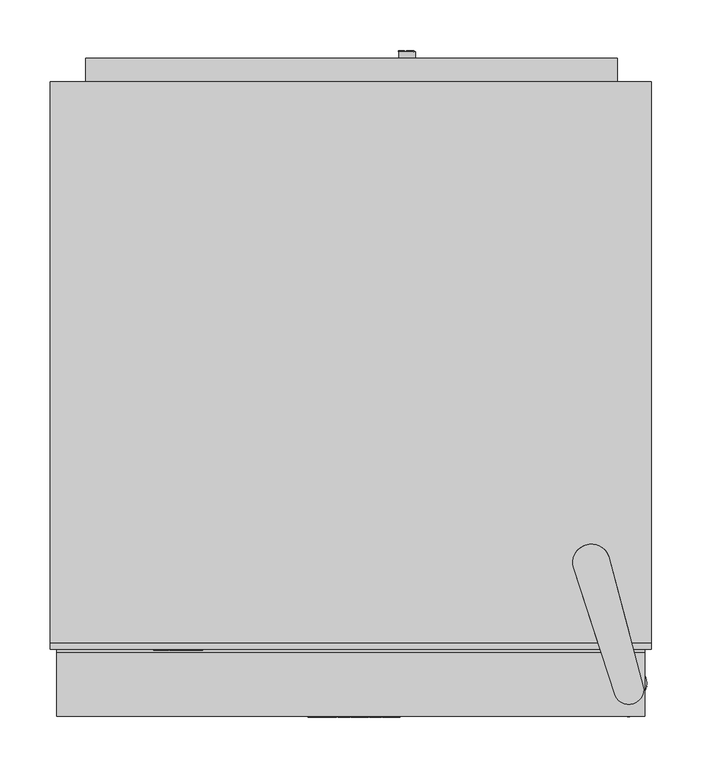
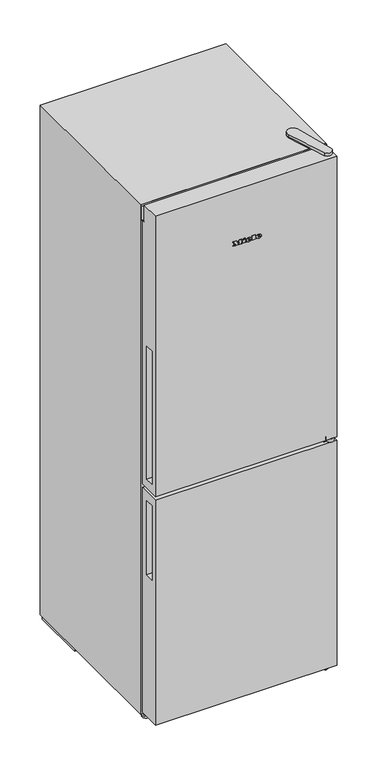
"""IFC4 building model written with IfcOpenShell, lengths in millimetres: proxy geometry, 11980300_EU1_KD4050E_EL : 38405051_EU1_11980300_KD4050E_EL."""

from ifc_helpers import new_model, si_unit, point, frame, frame_2d, origin, origin_with_axes, place, context, project, spatial, polyline, circle_curve, ellipse_curve, trimmed, segment, composite_curve, outline, extrude, faceted_brep, source, transform, mapped, element, save
from ifc_brep_helpers import plane_surface, cylinder_surface, revolved_surface, extruded_surface, advanced_brep


def specialty_equipment_8ae80f27(model_context):
    return source(origin(), model_context, "Body", "SolidModel", [
        advanced_brep(
        [(38.73, -654.0, 1567.515), (38.73, -654.0, 1569.03), (48.765, -654.0, 1569.03), (31.305, -654.0, 1569.03), (35.43, -654.0, 1563.96), (48.51, -654.0, 1567.515), (43.98, -654.0, 1567.515), (40.41, -654.0, 1565.835), (38.73, -654.0, 1570.95), (38.73, -654.0, 1572.585), (41.295, -654.0, 1572.585), (41.295, -654.0, 1570.95), (38.73, -653.0, 1567.515), (40.41, -653.0, 1565.835), (43.98, -653.0, 1567.515), (48.51, -653.0, 1567.515), (35.43, -653.0, 1563.96), (31.305, -653.0, 1569.03), (48.765, -653.0, 1569.03), (38.73, -653.0, 1569.03), (38.73, -653.0, 1570.95), (41.295, -653.0, 1570.95), (41.295, -653.0, 1572.585), (38.73, -653.0, 1572.585)],
        [
            (0, 1),
            (1, 2),
            (2, 3, ellipse_curve(frame((40.035, -654.0, 1569.03), z_axis=(0.0, -1.0, 0.0), x_axis=(-1.0, 0.0, 0.0)), 8.73, 7.215)),
            (3, 4, circle_curve(frame((37.1100818, -654.0, 1569.54), z_axis=(0.0, -1.0, 0.0), x_axis=(0.0, 0.0, -1.0)), 5.8274415)),
            (4, 5, circle_curve(frame((39.860238, -654.0, 1573.5), z_axis=(0.0, -1.0, 0.0), x_axis=(0.0, 0.0, -1.0)), 10.5184889)),
            (5, 6),
            (6, 7, circle_curve(frame((41.1432353, -654.0, 1568.91), z_axis=(0.0, 1.0, 0.0), x_axis=(0.0, 0.0, -1.0)), 3.1612116)),
            (7, 0, circle_curve(frame((40.41, -654.0, 1567.515), z_axis=(0.0, 1.0, 0.0), x_axis=(0.0, 0.0, -1.0)), 1.68)),
            (8, 9),
            (9, 10, circle_curve(frame((40.0125, -654.0, 1572.585), z_axis=(0.0, 1.0, 0.0), x_axis=(0.0, 0.0, -1.0)), 1.2825)),
            (10, 11),
            (11, 8),
            (12, 13, circle_curve(frame((40.41, -653.0, 1567.515), z_axis=(0.0, -1.0, 0.0), x_axis=(0.0, 0.0, -1.0)), 1.68)),
            (13, 14, circle_curve(frame((41.1432353, -653.0, 1568.91), z_axis=(0.0, -1.0, 0.0), x_axis=(0.0, 0.0, -1.0)), 3.1612116)),
            (14, 15),
            (15, 16, circle_curve(frame((39.860238, -653.0, 1573.5), z_axis=(0.0, 1.0, 0.0), x_axis=(0.0, 0.0, -1.0)), 10.5184889)),
            (16, 17, circle_curve(frame((37.1100818, -653.0, 1569.54), z_axis=(0.0, 1.0, 0.0), x_axis=(0.0, 0.0, -1.0)), 5.8274415)),
            (17, 18, ellipse_curve(frame((40.035, -653.0, 1569.03), z_axis=(0.0, 1.0, 0.0), x_axis=(-1.0, 0.0, 0.0)), 8.73, 7.215)),
            (18, 19),
            (19, 12),
            (20, 21),
            (21, 22),
            (22, 23, circle_curve(frame((40.0125, -653.0, 1572.585), z_axis=(0.0, -1.0, 0.0), x_axis=(0.0, 0.0, -1.0)), 1.2825)),
            (23, 20),
            (0, 12),
            (19, 1),
            (18, 2),
            (5, 15),
            (14, 6),
            (17, 3),
            (13, 7),
            (16, 4),
            (8, 20),
            (23, 9),
            (22, 10),
            (21, 11),
        ],
        [
            plane_surface(frame((38.73, -654.0, 1569.03), z_axis=(0.0, -1.0, 0.0), x_axis=(0.0, 0.0, 1.0))),
            plane_surface(frame((38.73, -653.0, 1569.03), z_axis=(0.0, 1.0, 0.0), x_axis=(0.0, 0.0, -1.0))),
            plane_surface(frame((38.73, -654.0, 1567.515), z_axis=(1.0, 0.0, 0.0), x_axis=(0.0, 1.0, 0.0))),
            plane_surface(frame((38.73, -654.0, 1569.03), z_axis=(0.0, 0.0, -1.0), x_axis=(0.0, 1.0, 0.0))),
            plane_surface(frame((48.51, -654.0, 1567.515), z_axis=(0.0, 0.0, 1.0), x_axis=(0.0, 1.0, 0.0))),
            extruded_surface(trimmed(ellipse_curve(frame((40.035, -652.0, 1569.03), z_axis=(0.0, -1.0, 0.0), x_axis=(-1.0, 0.0, 0.0)), 8.73, 7.215), [point((48.765, -652.0, 1569.03))], [point((31.305, -652.0, 1569.03))], True, "CARTESIAN"), (0.0, -1.0, 0.0), 1.0),
            revolved_surface(polyline([(41.1432353, -653.0, 1565.7487884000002), (41.1432353, -654.0, 1565.7487884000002)]), (41.1432353, -653.0, 1568.91), (0.0, 1.0, 0.0)),
            revolved_surface(polyline([(40.41, -653.0, 1565.835), (40.41, -654.0, 1565.835)]), (40.41, -653.0, 1567.515), (0.0, 1.0, 0.0)),
            cylinder_surface(frame((37.1100818, -653.0, 1569.54), z_axis=(0.0, -1.0, 0.0), x_axis=(0.0, 0.0, -1.0)), 5.8274415),
            cylinder_surface(frame((39.860238, -653.0, 1573.5), z_axis=(0.0, -1.0, 0.0), x_axis=(0.0, 0.0, -1.0)), 10.5184889),
            plane_surface(frame((38.73, -654.0, 1570.95), z_axis=(1.0, 0.0, 0.0), x_axis=(0.0, 1.0, 0.0))),
            revolved_surface(polyline([(40.0125, -653.0, 1571.3025), (40.0125, -654.0, 1571.3025)]), (40.0125, -653.0, 1572.585), (0.0, 1.0, 0.0)),
            plane_surface(frame((41.295, -654.0, 1572.585), z_axis=(-1.0, 0.0, 0.0), x_axis=(0.0, 1.0, 0.0))),
            plane_surface(frame((41.295, -654.0, 1570.95), z_axis=(0.0, 0.0, 1.0), x_axis=(0.0, 1.0, 0.0))),
        ],
        [
            (0, [[1, 2, 3, 4, 5, 6, 7, 8], [9, 10, 11, 12]]),
            (1, [[13, 14, 15, 16, 17, 18, 19, 20], [21, 22, 23, 24]]),
            (2, [[-1, 25, -20, 26]]),
            (3, [[-2, -26, -19, 27]]),
            (4, [[-6, 28, -15, 29]]),
            (5, [[-3, -27, -18, 30]]),
            (6, [[-7, -29, -14, 31]]),
            (7, [[-8, -31, -13, -25]]),
            (8, [[-4, -30, -17, 32]]),
            (9, [[-5, -32, -16, -28]]),
            (10, [[-9, 33, -24, 34]]),
            (11, [[-10, -34, -23, 35]]),
            (12, [[-11, -35, -22, 36]]),
            (13, [[-12, -36, -21, -33]]),
        ],
    ),
        advanced_brep(
        [(7.425, -654.0, 1567.515), (7.425, -654.0, 1569.03), (17.46, -654.0, 1569.03), (0.0, -654.0, 1569.03), (4.125, -654.0, 1563.96), (17.205, -654.0, 1567.515), (12.675, -654.0, 1567.515), (9.105, -654.0, 1565.835), (7.425, -654.0, 1570.95), (7.425, -654.0, 1572.585), (9.99, -654.0, 1572.585), (9.99, -654.0, 1570.95), (7.425, -653.0, 1567.515), (9.105, -653.0, 1565.835), (12.675, -653.0, 1567.515), (17.205, -653.0, 1567.515), (4.125, -653.0, 1563.96), (0.0, -653.0, 1569.03), (17.46, -653.0, 1569.03), (7.425, -653.0, 1569.03), (7.425, -653.0, 1570.95), (9.99, -653.0, 1570.95), (9.99, -653.0, 1572.585), (7.425, -653.0, 1572.585)],
        [
            (0, 1),
            (1, 2),
            (2, 3, ellipse_curve(frame((8.73, -654.0, 1569.03), z_axis=(0.0, -1.0, 0.0), x_axis=(-1.0, 0.0, 0.0)), 8.73, 7.215)),
            (3, 4, circle_curve(frame((5.8050818, -654.0, 1569.54), z_axis=(0.0, -1.0, 0.0), x_axis=(0.0, 0.0, -1.0)), 5.8274415)),
            (4, 5, circle_curve(frame((8.555238, -654.0, 1573.5), z_axis=(0.0, -1.0, 0.0), x_axis=(0.0, 0.0, -1.0)), 10.5184889)),
            (5, 6),
            (6, 7, circle_curve(frame((9.8382353, -654.0, 1568.91), z_axis=(0.0, 1.0, 0.0), x_axis=(0.0, 0.0, -1.0)), 3.1612116)),
            (7, 0, circle_curve(frame((9.105, -654.0, 1567.515), z_axis=(0.0, 1.0, 0.0), x_axis=(0.0, 0.0, -1.0)), 1.68)),
            (8, 9),
            (9, 10, circle_curve(frame((8.7075, -654.0, 1572.585), z_axis=(0.0, 1.0, 0.0), x_axis=(0.0, 0.0, -1.0)), 1.2825)),
            (10, 11),
            (11, 8),
            (12, 13, circle_curve(frame((9.105, -653.0, 1567.515), z_axis=(0.0, -1.0, 0.0), x_axis=(0.0, 0.0, -1.0)), 1.68)),
            (13, 14, circle_curve(frame((9.8382353, -653.0, 1568.91), z_axis=(0.0, -1.0, 0.0), x_axis=(0.0, 0.0, -1.0)), 3.1612116)),
            (14, 15),
            (15, 16, circle_curve(frame((8.555238, -653.0, 1573.5), z_axis=(0.0, 1.0, 0.0), x_axis=(0.0, 0.0, -1.0)), 10.5184889)),
            (16, 17, circle_curve(frame((5.8050818, -653.0, 1569.54), z_axis=(0.0, 1.0, 0.0), x_axis=(0.0, 0.0, -1.0)), 5.8274415)),
            (17, 18, ellipse_curve(frame((8.73, -653.0, 1569.03), z_axis=(0.0, 1.0, 0.0), x_axis=(-1.0, 0.0, 0.0)), 8.73, 7.215)),
            (18, 19),
            (19, 12),
            (20, 21),
            (21, 22),
            (22, 23, circle_curve(frame((8.7075, -653.0, 1572.585), z_axis=(0.0, -1.0, 0.0), x_axis=(0.0, 0.0, -1.0)), 1.2825)),
            (23, 20),
            (0, 12),
            (19, 1),
            (18, 2),
            (5, 15),
            (14, 6),
            (17, 3),
            (13, 7),
            (16, 4),
            (8, 20),
            (23, 9),
            (22, 10),
            (21, 11),
        ],
        [
            plane_surface(frame((7.425, -654.0, 1569.03), z_axis=(0.0, -1.0, 0.0), x_axis=(0.0, 0.0, 1.0))),
            plane_surface(frame((7.425, -653.0, 1569.03), z_axis=(0.0, 1.0, 0.0), x_axis=(0.0, 0.0, -1.0))),
            plane_surface(frame((7.425, -654.0, 1567.515), z_axis=(1.0, 0.0, 0.0), x_axis=(0.0, 1.0, 0.0))),
            plane_surface(frame((7.425, -654.0, 1569.03), z_axis=(0.0, 0.0, -1.0), x_axis=(0.0, 1.0, 0.0))),
            plane_surface(frame((17.205, -654.0, 1567.515), z_axis=(0.0, 0.0, 1.0), x_axis=(0.0, 1.0, 0.0))),
            extruded_surface(trimmed(ellipse_curve(frame((8.73, -652.0, 1569.03), z_axis=(0.0, -1.0, 0.0), x_axis=(-1.0, 0.0, 0.0)), 8.73, 7.215), [point((17.46, -652.0, 1569.03))], [point((0.0, -652.0, 1569.03))], True, "CARTESIAN"), (0.0, -1.0, 0.0), 1.0),
            revolved_surface(polyline([(9.8382353, -653.0, 1565.7487884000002), (9.8382353, -654.0, 1565.7487884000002)]), (9.8382353, -653.0, 1568.91), (0.0, 1.0, 0.0)),
            revolved_surface(polyline([(9.105, -653.0, 1565.835), (9.105, -654.0, 1565.835)]), (9.105, -653.0, 1567.515), (0.0, 1.0, 0.0)),
            cylinder_surface(frame((5.8050818, -653.0, 1569.54), z_axis=(0.0, -1.0, 0.0), x_axis=(0.0, 0.0, -1.0)), 5.8274415),
            cylinder_surface(frame((8.555238, -653.0, 1573.5), z_axis=(0.0, -1.0, 0.0), x_axis=(0.0, 0.0, -1.0)), 10.5184889),
            plane_surface(frame((7.425, -654.0, 1570.95), z_axis=(1.0, 0.0, 0.0), x_axis=(0.0, 1.0, 0.0))),
            revolved_surface(polyline([(8.7075, -653.0, 1571.3025), (8.7075, -654.0, 1571.3025)]), (8.7075, -653.0, 1572.585), (0.0, 1.0, 0.0)),
            plane_surface(frame((9.99, -654.0, 1572.585), z_axis=(-1.0, 0.0, 0.0), x_axis=(0.0, 1.0, 0.0))),
            plane_surface(frame((9.99, -654.0, 1570.95), z_axis=(0.0, 0.0, 1.0), x_axis=(0.0, 1.0, 0.0))),
        ],
        [
            (0, [[1, 2, 3, 4, 5, 6, 7, 8], [9, 10, 11, 12]]),
            (1, [[13, 14, 15, 16, 17, 18, 19, 20], [21, 22, 23, 24]]),
            (2, [[-1, 25, -20, 26]]),
            (3, [[-2, -26, -19, 27]]),
            (4, [[-6, 28, -15, 29]]),
            (5, [[-3, -27, -18, 30]]),
            (6, [[-7, -29, -14, 31]]),
            (7, [[-8, -31, -13, -25]]),
            (8, [[-4, -30, -17, 32]]),
            (9, [[-5, -32, -16, -28]]),
            (10, [[-9, 33, -24, 34]]),
            (11, [[-10, -34, -23, 35]]),
            (12, [[-11, -35, -22, 36]]),
            (13, [[-12, -36, -21, -33]]),
        ],
    ),
        extrude(outline(polyline([(1578.075, -8.97), (1575.645, -7.83), (1578.015, -2.745), (1580.445, -3.87), (1578.075, -8.97)])), frame((0.0, -654.0, 0.0), z_axis=(0.0, 1.0, 0.0), x_axis=(0.0, 0.0, 1.0)), (0.0, 0.0, 1.0), 1.0),
        extrude(outline(polyline([(1575.315, -12.675), (1572.63, -12.675), (1572.63, -10.89), (1566.48, -10.89), (1566.48, -12.675), (1563.96, -12.675), (1563.96, -0.84), (1566.48, -0.84), (1566.48, -2.58), (1575.315, -2.58), (1575.315, -12.675)])), frame((0.0, -654.0, 0.0), z_axis=(0.0, 1.0, 0.0), x_axis=(0.0, 0.0, 1.0)), (0.0, 0.0, 1.0), 1.0),
        extrude(outline(polyline([(1576.515, 18.3), (1576.515, 20.1), (1566.48, 20.1), (1566.48, 18.3), (1563.96, 18.3), (1563.96, 30.465), (1566.48, 30.465), (1566.48, 28.62), (1578.96, 28.62), (1578.96, 18.3), (1576.515, 18.3)])), frame((0.0, -654.0, 0.0), z_axis=(0.0, 1.0, 0.0), x_axis=(0.0, 0.0, 1.0)), (0.0, 0.0, 1.0), 1.0),
        extrude(outline(polyline([(1576.515, -42.57), (1576.515, -40.755), (1566.48, -40.755), (1566.48, -42.57), (1563.96, -42.57), (1563.96, -35.97), (1566.48, -35.97), (1566.48, -37.77), (1572.8161247, -37.77), (1563.96, -31.065), (1573.1502223, -24.33), (1566.48, -24.33), (1566.48, -26.175), (1563.96, -26.175), (1563.96, -14.205), (1566.48, -14.205), (1566.48, -16.11), (1576.515, -16.11), (1576.515, -14.205), (1578.96, -14.205), (1578.96, -23.34), (1573.335, -27.72), (1578.96, -32.115), (1578.96, -42.57), (1576.515, -42.57)])), frame((0.0, -654.0, 0.0), z_axis=(0.0, 1.0, 0.0), x_axis=(0.0, 0.0, 1.0)), (0.0, 0.0, 1.0), 1.0),
        faceted_brep([(298.5, -23.0, 1750.0), (-298.5, -23.0, 1750.0), (-298.5, -580.0, 1750.0), (298.5, -580.0, 1750.0), (298.5, -23.0, 19.0), (298.5, -580.0, 19.0), (-298.5, -580.0, 19.0), (-298.5, -23.0, 19.0), (-234.0, -580.0, 1666.0), (234.0, -580.0, 1666.0), (234.0, -580.0, 827.0), (-234.0, -580.0, 827.0), (-234.0, -580.0, 733.0), (234.0, -580.0, 733.0), (234.0, -580.0, 109.0), (-234.0, -580.0, 109.0), (-234.0, -63.0, 1666.0), (234.0, -63.0, 1666.0), (234.0, -63.0, 827.0), (-234.0, -63.0, 827.0), (-234.0, -63.0, 733.0), (234.0, -63.0, 733.0), (234.0, -63.0, 109.0), (-234.0, -63.0, 109.0)], [[[0, 1, 2, 3]], [[4, 5, 6, 7]], [[1, 0, 4, 7]], [[2, 1, 7, 6]], [[3, 2, 6, 5], [8, 9, 10, 11], [12, 13, 14, 15]], [[0, 3, 5, 4]], [[16, 17, 9, 8]], [[18, 19, 11, 10]], [[17, 16, 19, 18]], [[19, 16, 8, 11]], [[17, 18, 10, 9]], [[20, 21, 13, 12]], [[22, 23, 15, 14]], [[21, 20, 23, 22]], [[23, 20, 12, 15]], [[21, 22, 14, 13]]]),
        extrude(outline(composite_curve([segment(polyline([(-56.420729, 6.1484915), (-39.9901847, 6.1484915)]), True, "CONTINUOUS"), segment(trimmed(circle_curve(frame_2d((-48.2054569, 8.6902384)), 8.5994869), [point((-39.9901847, 6.1484915))], [point((-56.420729, 6.1484915))], False, "CARTESIAN"), True, "CONTINUOUS")], self_intersect=False)), frame((264.4820102, 0.0, 0.0), z_axis=(1.0, 0.0, 0.0), x_axis=(0.0, 1.0, 0.0)), (0.0, 0.0, 1.0), 17.0656722),
        extrude(outline(composite_curve([segment(trimmed(circle_curve(frame_2d((-274.5, -569.6105025)), 7.4374754), [point((-281.9374754, -569.6105025))], [point((-267.0625246, -569.6105025))], False, "CARTESIAN"), True, "CONTINUOUS"), segment(trimmed(circle_curve(frame_2d((-274.5, -569.6105025)), 7.4374754), [point((-267.0625246, -569.6105025))], [point((-281.9374754, -569.6105025))], False, "CARTESIAN"), True, "CONTINUOUS")], self_intersect=False)), frame((0.0, 0.0, 6.1484915), z_axis=(0.0, 0.0, 1.0), x_axis=(1.0, 0.0, 0.0)), (0.0, 0.0, 1.0), 12.8515085),
        extrude(outline(composite_curve([segment(trimmed(circle_curve(frame_2d((-274.5, -569.7060517)), 12.797253), [point((-287.297253, -569.7060517))], [point((-261.702747, -569.7060517))], False, "CARTESIAN"), True, "CONTINUOUS"), segment(trimmed(circle_curve(frame_2d((-274.5, -569.7060517)), 12.797253), [point((-261.702747, -569.7060517))], [point((-287.297253, -569.7060517))], False, "CARTESIAN"), True, "CONTINUOUS")], self_intersect=False)), origin_with_axes(), (0.0, 0.0, 1.0), 6.1484915),
        extrude(outline(polyline([(298.5, -586.4996489), (-298.5, -586.4996489), (-298.5, -580.0), (298.5, -580.0), (298.5, -586.4996489)])), frame((0.0, 0.0, 1701.2229618), z_axis=(0.0, 0.0, 1.0), x_axis=(1.0, 0.0, 0.0)), (0.0, 0.0, 1.0), 48.7770382),
        extrude(outline(polyline([(277.7112582, -200.120515), (251.0987637, -200.120515), (251.0987637, -87.2190022), (277.7112582, -87.2190022), (277.7112582, -200.120515)])), origin_with_axes(), (0.0, 0.0, 1.0), 6.1484915),
        extrude(outline(polyline([(251.0987637, -26.8205259), (291.0987637, -26.8205259), (291.0987637, -206.6206354), (251.0987637, -206.6206354), (251.0987637, -26.8205259)])), frame((0.0, 0.0, 6.1484915), z_axis=(0.0, 0.0, 1.0), x_axis=(1.0, 0.0, 0.0)), (0.0, 0.0, 1.0), 12.8515085),
        extrude(outline(composite_curve([segment(polyline([(-56.420729, 6.1484915), (-39.9901847, 6.1484915)]), True, "CONTINUOUS"), segment(trimmed(circle_curve(frame_2d((-48.2054569, 8.6902384)), 8.5994869), [point((-39.9901847, 6.1484915))], [point((-56.420729, 6.1484915))], False, "CARTESIAN"), True, "CONTINUOUS")], self_intersect=False)), frame((-281.5476824, 0.0, 0.0), z_axis=(1.0, 0.0, 0.0), x_axis=(0.0, 1.0, 0.0)), (0.0, 0.0, 1.0), 17.0656722),
        extrude(outline(polyline([(-277.7112582, -200.120515), (-277.7112582, -87.2190022), (-252.7112582, -87.2190022), (-252.7112582, -200.120515), (-277.7112582, -200.120515)])), origin_with_axes(), (0.0, 0.0, 1.0), 6.1484915),
        extrude(outline(polyline([(-252.7112582, -26.8205259), (-252.7112582, -206.6206354), (-295.0984336, -206.6206354), (-295.0984336, -26.8205259), (-252.7112582, -26.8205259)])), frame((0.0, 0.0, 6.1484915), z_axis=(0.0, 0.0, 1.0), x_axis=(1.0, 0.0, 0.0)), (0.0, 0.0, 1.0), 12.8515085),
        extrude(outline(polyline([(244.9015664, -32.3201), (244.9015664, -206.6206354), (-245.4999985, -206.6206354), (-245.4999985, -32.3201), (244.9015664, -32.3201)])), frame((0.0, 0.0, 6.1484915), z_axis=(0.0, 0.0, 1.0), x_axis=(1.0, 0.0, 0.0)), (0.0, 0.0, 1.0), 12.8515085),
        extrude(outline(polyline([(264.8461624, -23.0), (-263.5, -23.0), (-263.5, 0.0), (264.8461624, 0.0), (264.8461624, -23.0)])), frame((0.0, 0.0, 231.5932438), z_axis=(0.0, 0.0, 1.0), x_axis=(1.0, 0.0, 0.0)), (0.0, 0.0, 1.0), 1493.4067562),
        extrude(outline(polyline([(82.6680573, 62.602404), (92.7136883, 62.602404), (92.7136883, 55.3821067), (91.4579844, 55.3821067), (91.4579844, 61.3467001), (88.4756877, 61.3467001), (88.4756877, 55.6960327), (87.2199838, 55.6960327), (87.2199838, 61.3467001), (83.9237612, 61.3467001), (83.9237612, 55.2251437), (82.6680573, 55.2251437), (82.6680573, 62.602404)])), frame((0.0, 7.0, 0.0), z_axis=(0.0, 1.0, 0.0), x_axis=(0.0, 0.0, 1.0)), (0.0, 0.0, 1.0), 1.0),
        extrude(outline(polyline([(82.6680573, 53.3415879), (92.7136883, 53.3415879), (92.7136883, 52.085884), (83.9237612, 52.085884), (83.9237612, 47.0630685), (82.6680573, 47.0630685), (82.6680573, 53.3415879)])), frame((0.0, 7.0, 0.0), z_axis=(0.0, 1.0, 0.0), x_axis=(0.0, 0.0, 1.0)), (0.0, 0.0, 1.0), 1.0),
        extrude(outline(composite_curve([segment(trimmed(circle_curve(frame_2d((88.0, 56.0)), 8.0), [point((88.0, 48.0))], [point((88.0, 64.0))], False, "CARTESIAN"), True, "CONTINUOUS"), segment(trimmed(circle_curve(frame_2d((88.0, 56.0)), 8.0), [point((88.0, 64.0))], [point((88.0, 48.0))], False, "CARTESIAN"), True, "CONTINUOUS")], self_intersect=False)), frame((0.0, -23.0, 0.0), z_axis=(0.0, 1.0, 0.0), x_axis=(0.0, 0.0, 1.0)), (0.0, 0.0, 1.0), 30.0),
        extrude(outline(polyline([(255.1369404, -644.0500518), (255.1369404, -589.0), (292.0, -589.0), (292.0, -629.2312633), (263.6572781, -629.2312633), (263.6572781, -644.0500518), (255.1369404, -644.0500518)])), frame((0.0, 0.0, 788.0), z_axis=(0.0, 0.0, 1.0), x_axis=(1.0, 0.0, 0.0)), (0.0, 0.0, 1.0), 11.7998428),
        extrude(outline(composite_curve([segment(trimmed(circle_curve(frame_2d((276.0, -641.3479469)), 12.0), [point((264.0, -641.3479469))], [point((288.0, -641.3479469))], False, "CARTESIAN"), True, "CONTINUOUS"), segment(trimmed(circle_curve(frame_2d((276.0, -641.3479469)), 12.0), [point((288.0, -641.3479469))], [point((264.0, -641.3479469))], False, "CARTESIAN"), True, "CONTINUOUS")], self_intersect=False)), frame((0.0, 0.0, 788.0), z_axis=(0.0, 0.0, 1.0), x_axis=(1.0, 0.0, 0.0)), (0.0, 0.0, 1.0), 11.7998428),
        faceted_brep([(292.0, -653.0, 788.0), (-292.0, -653.0, 788.0), (-292.0, -653.0, 24.0), (292.0, -653.0, 24.0), (292.0, -580.0, 788.0), (292.0, -580.0, 24.0), (-292.0, -580.0, 24.0), (-292.0, -580.0, 788.0), (-292.0, -635.0, 758.0), (-292.0, -635.0, 506.0121804), (-292.0, -604.4897883, 506.0121804), (-292.0, -604.4897883, 758.0), (-268.2740132, -635.0, 758.0), (-268.2740132, -604.4897883, 758.0), (-268.2740132, -604.4897883, 506.0121804), (-268.2740132, -635.0, 506.0121804)], [[[0, 1, 2, 3]], [[4, 5, 6, 7]], [[1, 0, 4, 7]], [[2, 1, 7, 6], [8, 9, 10, 11]], [[3, 2, 6, 5]], [[0, 3, 5, 4]], [[12, 13, 14, 15]], [[12, 15, 9, 8]], [[15, 14, 10, 9]], [[14, 13, 11, 10]], [[13, 12, 8, 11]]]),
        extrude(outline(composite_curve([segment(trimmed(circle_curve(frame_2d((255.0, -586.0)), 13.0), [point((242.0, -586.0))], [point((268.0, -586.0))], False, "CARTESIAN"), True, "CONTINUOUS"), segment(trimmed(circle_curve(frame_2d((255.0, -586.0)), 13.0), [point((268.0, -586.0))], [point((242.0, -586.0))], False, "CARTESIAN"), True, "CONTINUOUS")], self_intersect=False)), origin_with_axes(), (0.0, 0.0, 1.0), 6.9998158),
        extrude(outline(composite_curve([segment(trimmed(circle_curve(frame_2d((276.9946442, -619.9124361)), 17.0), [point((259.9946442, -619.9124361))], [point((293.9946442, -619.9124361))], False, "CARTESIAN"), True, "CONTINUOUS"), segment(trimmed(circle_curve(frame_2d((276.9946442, -619.9124361)), 17.0), [point((293.9946442, -619.9124361))], [point((259.9946442, -619.9124361))], False, "CARTESIAN"), True, "CONTINUOUS")], self_intersect=False)), frame((0.0, 0.0, 18.8964761), z_axis=(0.0, 0.0, 1.0), x_axis=(1.0, 0.0, 0.0)), (0.0, 0.0, 1.0), 5.1035239),
        extrude(outline(polyline([(294.0677389, -623.5579978), (264.4272141, -637.8371511), (205.1568838, -531.0918017), (240.1598028, -511.6564392), (294.0677389, -623.5579978)])), frame((0.0, 0.0, 6.9998158), z_axis=(0.0, 0.0, 1.0), x_axis=(1.0, 0.0, 0.0)), (0.0, 0.0, 1.0), 11.8966603),
        extrude(outline(composite_curve([segment(polyline([(276.4367298, -571.0430426), (245.1616399, -579.2864892), (221.3582255, -506.2033511)]), True, "CONTINUOUS"), segment(trimmed(circle_curve(frame_2d((238.85062, -500.5060216)), 18.3968321), [point((221.3582255, -506.2033511))], [point((256.3428386, -494.8081519))], False, "CARTESIAN"), True, "CONTINUOUS"), segment(polyline([(256.3428386, -494.8081519), (276.4367298, -571.0430426)]), True, "CONTINUOUS")], self_intersect=False)), frame((0.0, 0.0, 1749.9998428), z_axis=(0.0, 0.0, 1.0), x_axis=(1.0, 0.0, 0.0)), (0.0, 0.0, 1.0), 2.8),
        extrude(outline(composite_curve([segment(polyline([(262.5128912, -632.5530567), (221.3582255, -506.2033511)]), True, "CONTINUOUS"), segment(trimmed(circle_curve(frame_2d((238.850532, -500.5057515)), 18.3968321), [point((221.3582255, -506.2033511))], [point((256.3428386, -494.8081519))], False, "CARTESIAN"), True, "CONTINUOUS"), segment(polyline([(256.3428386, -494.8081519), (291.0205136, -626.3729512)]), True, "CONTINUOUS"), segment(trimmed(circle_curve(frame_2d((276.0339956, -626.0831703)), 14.9893193), [point((291.0205136, -626.3729512))], [point((262.5128912, -632.5530567))], False, "CARTESIAN"), True, "CONTINUOUS")], self_intersect=False)), frame((0.0, 0.0, 1752.7998428), z_axis=(0.0, 0.0, 1.0), x_axis=(1.0, 0.0, 0.0)), (0.0, 0.0, 1.0), 9.2001572),
        extrude(outline(polyline([(292.0, -589.0), (162.9885295, -589.0), (162.9885295, -580.0), (292.0, -580.0), (292.0, -589.0)])), frame((0.0, 0.0, 788.0), z_axis=(0.0, 0.0, 1.0), x_axis=(1.0, 0.0, 0.0)), (0.0, 0.0, 1.0), 11.7998428),
        faceted_brep([(292.0, -653.0, 1752.7998428), (-292.0, -653.0, 1752.7998428), (-292.0, -653.0, 799.7998428), (292.0, -653.0, 799.7998428), (292.0, -580.0, 799.7998428), (-292.0, -580.0, 799.7998428), (-292.0, -580.0, 1696.7998428), (292.0, -580.0, 1696.7998428), (292.0, -589.8392038, 1752.7998428), (-292.0, -589.8392038, 1752.7998428), (-292.0, -589.8392038, 1696.7998428), (-292.0, -604.4876108, 831.0997411), (-292.0, -604.4876108, 1283.0), (-292.0, -635.0, 1283.0), (-292.0, -635.0, 831.0997411), (292.0, -589.8392038, 1696.7998428), (-268.2740132, -604.4876108, 831.0997411), (-268.2740132, -635.0, 831.0997411), (-268.2740132, -635.0, 1283.0), (-268.2740132, -604.4876108, 1283.0)], [[[0, 1, 2, 3]], [[4, 5, 6, 7]], [[1, 0, 8, 9]], [[2, 1, 9, 10, 6, 5], [11, 12, 13, 14]], [[3, 2, 5, 4]], [[0, 3, 4, 7, 15, 8]], [[15, 10, 9, 8]], [[10, 15, 7, 6]], [[16, 17, 18, 19]], [[16, 19, 12, 11]], [[19, 18, 13, 12]], [[18, 17, 14, 13]], [[17, 16, 11, 14]]]),
        advanced_brep(
        [(-152.64, -587.4996489, 1723.9054838), (-152.64, -587.4996489, 1724.7134838), (-147.288, -587.4996489, 1724.7134838), (-156.6, -587.4996489, 1724.7134838), (-154.4, -587.4996489, 1722.0094838), (-147.424, -587.4996489, 1723.9054838), (-149.84, -587.4996489, 1723.9054838), (-151.744, -587.4996489, 1723.0094838), (-152.64, -587.4996489, 1725.7374838), (-152.64, -587.4996489, 1726.6094838), (-151.272, -587.4996489, 1726.6094838), (-151.272, -587.4996489, 1725.7374838), (-152.64, -586.4996489, 1723.9054838), (-151.744, -586.4996489, 1723.0094838), (-149.84, -586.4996489, 1723.9054838), (-147.424, -586.4996489, 1723.9054838), (-154.4, -586.4996489, 1722.0094838), (-156.6, -586.4996489, 1724.7134838), (-147.288, -586.4996489, 1724.7134838), (-152.64, -586.4996489, 1724.7134838), (-152.64, -586.4996489, 1725.7374838), (-151.272, -586.4996489, 1725.7374838), (-151.272, -586.4996489, 1726.6094838), (-152.64, -586.4996489, 1726.6094838)],
        [
            (0, 1),
            (1, 2),
            (2, 3, ellipse_curve(frame((-151.944, -587.4996489, 1724.7134838), z_axis=(0.0, -1.0, 0.0), x_axis=(-1.0, 0.0, 0.0)), 4.656, 3.848)),
            (3, 4, circle_curve(frame((-153.5039564, -587.4996489, 1724.9854838), z_axis=(0.0, -1.0, 0.0), x_axis=(0.0, 0.0, -1.0)), 3.1079688)),
            (4, 5, circle_curve(frame((-152.0372064, -587.4996489, 1727.0974838), z_axis=(0.0, -1.0, 0.0), x_axis=(0.0, 0.0, -1.0)), 5.6098607)),
            (5, 6),
            (6, 7, circle_curve(frame((-151.3529412, -587.4996489, 1724.6494838), z_axis=(0.0, 1.0, 0.0), x_axis=(0.0, 0.0, -1.0)), 1.6859795)),
            (7, 0, circle_curve(frame((-151.744, -587.4996489, 1723.9054838), z_axis=(0.0, 1.0, 0.0), x_axis=(0.0, 0.0, -1.0)), 0.896)),
            (8, 9),
            (9, 10, circle_curve(frame((-151.956, -587.4996489, 1726.6094838), z_axis=(0.0, 1.0, 0.0), x_axis=(0.0, 0.0, -1.0)), 0.684)),
            (10, 11),
            (11, 8),
            (12, 13, circle_curve(frame((-151.744, -586.4996489, 1723.9054838), z_axis=(0.0, -1.0, 0.0), x_axis=(0.0, 0.0, -1.0)), 0.896)),
            (13, 14, circle_curve(frame((-151.3529412, -586.4996489, 1724.6494838), z_axis=(0.0, -1.0, 0.0), x_axis=(0.0, 0.0, -1.0)), 1.6859795)),
            (14, 15),
            (15, 16, circle_curve(frame((-152.0372064, -586.4996489, 1727.0974838), z_axis=(0.0, 1.0, 0.0), x_axis=(0.0, 0.0, -1.0)), 5.6098607)),
            (16, 17, circle_curve(frame((-153.5039564, -586.4996489, 1724.9854838), z_axis=(0.0, 1.0, 0.0), x_axis=(0.0, 0.0, -1.0)), 3.1079688)),
            (17, 18, ellipse_curve(frame((-151.944, -586.4996489, 1724.7134838), z_axis=(0.0, 1.0, 0.0), x_axis=(-1.0, 0.0, 0.0)), 4.656, 3.848)),
            (18, 19),
            (19, 12),
            (20, 21),
            (21, 22),
            (22, 23, circle_curve(frame((-151.956, -586.4996489, 1726.6094838), z_axis=(0.0, -1.0, 0.0), x_axis=(0.0, 0.0, -1.0)), 0.684)),
            (23, 20),
            (0, 12),
            (19, 1),
            (18, 2),
            (5, 15),
            (14, 6),
            (17, 3),
            (13, 7),
            (16, 4),
            (8, 20),
            (23, 9),
            (22, 10),
            (21, 11),
        ],
        [
            plane_surface(frame((-152.64, -587.4996489, 1724.7134838), z_axis=(0.0, -1.0, 0.0), x_axis=(0.0, 0.0, 1.0))),
            plane_surface(frame((-152.64, -586.4996489, 1724.7134838), z_axis=(0.0, 1.0, 0.0), x_axis=(0.0, 0.0, -1.0))),
            plane_surface(frame((-152.64, -587.4996489, 1723.9054838), z_axis=(1.0, 0.0, 0.0), x_axis=(0.0, 1.0, 0.0))),
            plane_surface(frame((-152.64, -587.4996489, 1724.7134838), z_axis=(0.0, 0.0, -1.0), x_axis=(0.0, 1.0, 0.0))),
            plane_surface(frame((-147.424, -587.4996489, 1723.9054838), z_axis=(0.0, 0.0, 1.0), x_axis=(0.0, 1.0, 0.0))),
            extruded_surface(trimmed(ellipse_curve(frame((-151.944, -585.4996489, 1724.7134838), z_axis=(0.0, -1.0, 0.0), x_axis=(-1.0, 0.0, 0.0)), 4.656, 3.848), [point((-147.288, -585.4996489, 1724.7134838))], [point((-156.6, -585.4996489, 1724.7134838))], True, "CARTESIAN"), (0.0, -1.0, 0.0), 1.0),
            revolved_surface(polyline([(-151.3529412, -586.4996489, 1722.9635043), (-151.3529412, -587.4996489, 1722.9635043)]), (-151.3529412, -586.4996489, 1724.6494838), (0.0, 1.0, 0.0)),
            revolved_surface(polyline([(-151.744, -586.4996489, 1723.0094838), (-151.744, -587.4996489, 1723.0094838)]), (-151.744, -586.4996489, 1723.9054838), (0.0, 1.0, 0.0)),
            cylinder_surface(frame((-153.5039564, -586.4996489, 1724.9854838), z_axis=(0.0, -1.0, 0.0), x_axis=(0.0, 0.0, -1.0)), 3.1079688),
            cylinder_surface(frame((-152.0372064, -586.4996489, 1727.0974838), z_axis=(0.0, -1.0, 0.0), x_axis=(0.0, 0.0, -1.0)), 5.6098607),
            plane_surface(frame((-152.64, -587.4996489, 1725.7374838), z_axis=(1.0, 0.0, 0.0), x_axis=(0.0, 1.0, 0.0))),
            revolved_surface(polyline([(-151.956, -586.4996489, 1725.9254838), (-151.956, -587.4996489, 1725.9254838)]), (-151.956, -586.4996489, 1726.6094838), (0.0, 1.0, 0.0)),
            plane_surface(frame((-151.272, -587.4996489, 1726.6094838), z_axis=(-1.0, 0.0, 0.0), x_axis=(0.0, 1.0, 0.0))),
            plane_surface(frame((-151.272, -587.4996489, 1725.7374838), z_axis=(0.0, 0.0, 1.0), x_axis=(0.0, 1.0, 0.0))),
        ],
        [
            (0, [[1, 2, 3, 4, 5, 6, 7, 8], [9, 10, 11, 12]]),
            (1, [[13, 14, 15, 16, 17, 18, 19, 20], [21, 22, 23, 24]]),
            (2, [[-1, 25, -20, 26]]),
            (3, [[-2, -26, -19, 27]]),
            (4, [[-6, 28, -15, 29]]),
            (5, [[-3, -27, -18, 30]]),
            (6, [[-7, -29, -14, 31]]),
            (7, [[-8, -31, -13, -25]]),
            (8, [[-4, -30, -17, 32]]),
            (9, [[-5, -32, -16, -28]]),
            (10, [[-9, 33, -24, 34]]),
            (11, [[-10, -34, -23, 35]]),
            (12, [[-11, -35, -22, 36]]),
            (13, [[-12, -36, -21, -33]]),
        ],
    ),
        advanced_brep(
        [(-169.336, -587.4996489, 1723.9054838), (-169.336, -587.4996489, 1724.7134838), (-163.984, -587.4996489, 1724.7134838), (-173.296, -587.4996489, 1724.7134838), (-171.096, -587.4996489, 1722.0094838), (-164.12, -587.4996489, 1723.9054838), (-166.536, -587.4996489, 1723.9054838), (-168.44, -587.4996489, 1723.0094838), (-169.336, -587.4996489, 1725.7374838), (-169.336, -587.4996489, 1726.6094838), (-167.968, -587.4996489, 1726.6094838), (-167.968, -587.4996489, 1725.7374838), (-169.336, -586.4996489, 1723.9054838), (-168.44, -586.4996489, 1723.0094838), (-166.536, -586.4996489, 1723.9054838), (-164.12, -586.4996489, 1723.9054838), (-171.096, -586.4996489, 1722.0094838), (-173.296, -586.4996489, 1724.7134838), (-163.984, -586.4996489, 1724.7134838), (-169.336, -586.4996489, 1724.7134838), (-169.336, -586.4996489, 1725.7374838), (-167.968, -586.4996489, 1725.7374838), (-167.968, -586.4996489, 1726.6094838), (-169.336, -586.4996489, 1726.6094838)],
        [
            (0, 1),
            (1, 2),
            (2, 3, ellipse_curve(frame((-168.64, -587.4996489, 1724.7134838), z_axis=(0.0, -1.0, 0.0), x_axis=(-1.0, 0.0, 0.0)), 4.656, 3.848)),
            (3, 4, circle_curve(frame((-170.1999564, -587.4996489, 1724.9854838), z_axis=(0.0, -1.0, 0.0), x_axis=(0.0, 0.0, -1.0)), 3.1079688)),
            (4, 5, circle_curve(frame((-168.7332064, -587.4996489, 1727.0974838), z_axis=(0.0, -1.0, 0.0), x_axis=(0.0, 0.0, -1.0)), 5.6098607)),
            (5, 6),
            (6, 7, circle_curve(frame((-168.0489412, -587.4996489, 1724.6494838), z_axis=(0.0, 1.0, 0.0), x_axis=(0.0, 0.0, -1.0)), 1.6859795)),
            (7, 0, circle_curve(frame((-168.44, -587.4996489, 1723.9054838), z_axis=(0.0, 1.0, 0.0), x_axis=(0.0, 0.0, -1.0)), 0.896)),
            (8, 9),
            (9, 10, circle_curve(frame((-168.652, -587.4996489, 1726.6094838), z_axis=(0.0, 1.0, 0.0), x_axis=(0.0, 0.0, -1.0)), 0.684)),
            (10, 11),
            (11, 8),
            (12, 13, circle_curve(frame((-168.44, -586.4996489, 1723.9054838), z_axis=(0.0, -1.0, 0.0), x_axis=(0.0, 0.0, -1.0)), 0.896)),
            (13, 14, circle_curve(frame((-168.0489412, -586.4996489, 1724.6494838), z_axis=(0.0, -1.0, 0.0), x_axis=(0.0, 0.0, -1.0)), 1.6859795)),
            (14, 15),
            (15, 16, circle_curve(frame((-168.7332064, -586.4996489, 1727.0974838), z_axis=(0.0, 1.0, 0.0), x_axis=(0.0, 0.0, -1.0)), 5.6098607)),
            (16, 17, circle_curve(frame((-170.1999564, -586.4996489, 1724.9854838), z_axis=(0.0, 1.0, 0.0), x_axis=(0.0, 0.0, -1.0)), 3.1079688)),
            (17, 18, ellipse_curve(frame((-168.64, -586.4996489, 1724.7134838), z_axis=(0.0, 1.0, 0.0), x_axis=(-1.0, 0.0, 0.0)), 4.656, 3.848)),
            (18, 19),
            (19, 12),
            (20, 21),
            (21, 22),
            (22, 23, circle_curve(frame((-168.652, -586.4996489, 1726.6094838), z_axis=(0.0, -1.0, 0.0), x_axis=(0.0, 0.0, -1.0)), 0.684)),
            (23, 20),
            (0, 12),
            (19, 1),
            (18, 2),
            (5, 15),
            (14, 6),
            (17, 3),
            (13, 7),
            (16, 4),
            (8, 20),
            (23, 9),
            (22, 10),
            (21, 11),
        ],
        [
            plane_surface(frame((-169.336, -587.4996489, 1724.7134838), z_axis=(0.0, -1.0, 0.0), x_axis=(0.0, 0.0, 1.0))),
            plane_surface(frame((-169.336, -586.4996489, 1724.7134838), z_axis=(0.0, 1.0, 0.0), x_axis=(0.0, 0.0, -1.0))),
            plane_surface(frame((-169.336, -587.4996489, 1723.9054838), z_axis=(1.0, 0.0, 0.0), x_axis=(0.0, 1.0, 0.0))),
            plane_surface(frame((-169.336, -587.4996489, 1724.7134838), z_axis=(0.0, 0.0, -1.0), x_axis=(0.0, 1.0, 0.0))),
            plane_surface(frame((-164.12, -587.4996489, 1723.9054838), z_axis=(0.0, 0.0, 1.0), x_axis=(0.0, 1.0, 0.0))),
            extruded_surface(trimmed(ellipse_curve(frame((-168.64, -585.4996489, 1724.7134838), z_axis=(0.0, -1.0, 0.0), x_axis=(-1.0, 0.0, 0.0)), 4.656, 3.848), [point((-163.984, -585.4996489, 1724.7134838))], [point((-173.296, -585.4996489, 1724.7134838))], True, "CARTESIAN"), (0.0, -1.0, 0.0), 1.0),
            revolved_surface(polyline([(-168.0489412, -586.4996489, 1722.9635043), (-168.0489412, -587.4996489, 1722.9635043)]), (-168.0489412, -586.4996489, 1724.6494838), (0.0, 1.0, 0.0)),
            revolved_surface(polyline([(-168.44, -586.4996489, 1723.0094838), (-168.44, -587.4996489, 1723.0094838)]), (-168.44, -586.4996489, 1723.9054838), (0.0, 1.0, 0.0)),
            cylinder_surface(frame((-170.1999564, -586.4996489, 1724.9854838), z_axis=(0.0, -1.0, 0.0), x_axis=(0.0, 0.0, -1.0)), 3.1079688),
            cylinder_surface(frame((-168.7332064, -586.4996489, 1727.0974838), z_axis=(0.0, -1.0, 0.0), x_axis=(0.0, 0.0, -1.0)), 5.6098607),
            plane_surface(frame((-169.336, -587.4996489, 1725.7374838), z_axis=(1.0, 0.0, 0.0), x_axis=(0.0, 1.0, 0.0))),
            revolved_surface(polyline([(-168.652, -586.4996489, 1725.9254838), (-168.652, -587.4996489, 1725.9254838)]), (-168.652, -586.4996489, 1726.6094838), (0.0, 1.0, 0.0)),
            plane_surface(frame((-167.968, -587.4996489, 1726.6094838), z_axis=(-1.0, 0.0, 0.0), x_axis=(0.0, 1.0, 0.0))),
            plane_surface(frame((-167.968, -587.4996489, 1725.7374838), z_axis=(0.0, 0.0, 1.0), x_axis=(0.0, 1.0, 0.0))),
        ],
        [
            (0, [[1, 2, 3, 4, 5, 6, 7, 8], [9, 10, 11, 12]]),
            (1, [[13, 14, 15, 16, 17, 18, 19, 20], [21, 22, 23, 24]]),
            (2, [[-1, 25, -20, 26]]),
            (3, [[-2, -26, -19, 27]]),
            (4, [[-6, 28, -15, 29]]),
            (5, [[-3, -27, -18, 30]]),
            (6, [[-7, -29, -14, 31]]),
            (7, [[-8, -31, -13, -25]]),
            (8, [[-4, -30, -17, 32]]),
            (9, [[-5, -32, -16, -28]]),
            (10, [[-9, 33, -24, 34]]),
            (11, [[-10, -34, -23, 35]]),
            (12, [[-11, -35, -22, 36]]),
            (13, [[-12, -36, -21, -33]]),
        ],
    ),
        extrude(outline(polyline([(1729.5374838, -178.08), (1728.2414838, -177.472), (1729.5054838, -174.76), (1730.8014838, -175.36), (1729.5374838, -178.08)])), frame((0.0, -587.4996489, 0.0), z_axis=(0.0, 1.0, 0.0), x_axis=(0.0, 0.0, 1.0)), (0.0, 0.0, 1.0), 1.0),
        extrude(outline(polyline([(1728.0654838, -180.056), (1726.6334838, -180.056), (1726.6334838, -179.104), (1723.3534838, -179.104), (1723.3534838, -180.056), (1722.0094838, -180.056), (1722.0094838, -173.744), (1723.3534838, -173.744), (1723.3534838, -174.672), (1728.0654838, -174.672), (1728.0654838, -180.056)])), frame((0.0, -587.4996489, 0.0), z_axis=(0.0, 1.0, 0.0), x_axis=(0.0, 0.0, 1.0)), (0.0, 0.0, 1.0), 1.0),
        extrude(outline(polyline([(1728.7054838, -163.536), (1728.7054838, -162.576), (1723.3534838, -162.576), (1723.3534838, -163.536), (1722.0094838, -163.536), (1722.0094838, -157.048), (1723.3534838, -157.048), (1723.3534838, -158.032), (1730.0094838, -158.032), (1730.0094838, -163.536), (1728.7054838, -163.536)])), frame((0.0, -587.4996489, 0.0), z_axis=(0.0, 1.0, 0.0), x_axis=(0.0, 0.0, 1.0)), (0.0, 0.0, 1.0), 1.0),
        extrude(outline(polyline([(1728.7054838, -196.0), (1728.7054838, -195.032), (1723.3534838, -195.032), (1723.3534838, -196.0), (1722.0094838, -196.0), (1722.0094838, -192.48), (1723.3534838, -192.48), (1723.3534838, -193.44), (1726.7566086, -193.44), (1722.0094838, -189.864), (1726.8247061, -186.272), (1723.3534838, -186.272), (1723.3534838, -187.256), (1722.0094838, -187.256), (1722.0094838, -180.872), (1723.3534838, -180.872), (1723.3534838, -181.888), (1728.7054838, -181.888), (1728.7054838, -180.872), (1730.0094838, -180.872), (1730.0094838, -185.744), (1727.0094838, -188.08), (1730.0094838, -190.424), (1730.0094838, -196.0), (1728.7054838, -196.0)])), frame((0.0, -587.4996489, 0.0), z_axis=(0.0, 1.0, 0.0), x_axis=(0.0, 0.0, 1.0)), (0.0, 0.0, 1.0), 1.0),
    ])


if __name__ == "__main__":
    model = new_model("IFC4")
    model_context = context("Model", 3, world=origin())
    ifc_project = project(units=[si_unit("LENGTHUNIT", "METRE", prefix="MILLI")], contexts=[model_context])
    site = spatial("IfcSite", under=ifc_project)
    building = spatial("IfcBuilding", under=site)
    placement = place(None, origin())
    specialty_equipment_shape = specialty_equipment_8ae80f27(model_context)
    element("IfcBuildingElementProxy", 1, Name="11980300_EU1_KD4050E_EL : 38405051_EU1_11980300_KD4050E_EL", ObjectType="11980300_EU1_KD4050E_EL : 38405051_EU1_11980300_KD4050E_EL", at=placement, inside=building, context=model_context, shape_type="MappedRepresentation", body=[
        mapped(specialty_equipment_shape, transform((0.0, 0.0, 0.0), x_axis=(1.0, 0.0, 0.0), y_axis=(0.0, 1.0, 0.0), z_axis=(0.0, 0.0, 1.0))),
    ])
    save(model, "model.ifc")
